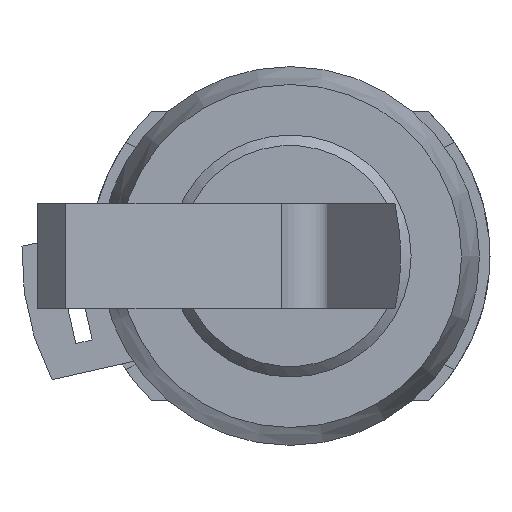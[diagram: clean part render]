
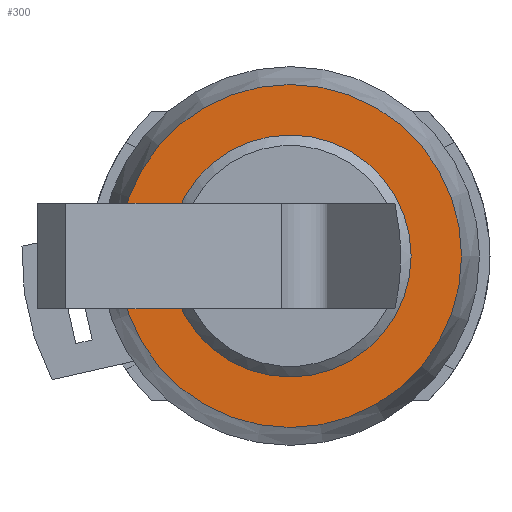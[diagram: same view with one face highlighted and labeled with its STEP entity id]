
A CAD part, left-side view. The second image highlights one B-rep face of the part: STEP entity #300.
In plain terms, the highlighted planar face has unit normal (-1, 0, 0).
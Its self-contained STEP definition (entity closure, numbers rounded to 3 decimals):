
#300 = ADVANCED_FACE ( 'NONE', ( #6231, #6241 ), #5294, .T. ) ;
#778 = EDGE_CURVE ( 'NONE', #11018, #11018, #10573, .T. ) ;
#780 = EDGE_CURVE ( 'NONE', #11022, #11022, #10575, .T. ) ;
#2226 = EDGE_LOOP ( 'NONE', ( #13695 ) ) ;
#2227 = EDGE_LOOP ( 'NONE', ( #13697 ) ) ;
#5285 = CARTESIAN_POINT ( 'NONE',  ( 0., 13.9, 0. ) ) ;
#5294 = PLANE ( 'NONE',  #7206 ) ;
#5295 = DIRECTION ( 'NONE',  ( -1., 0., 0. ) ) ;
#5296 = DIRECTION ( 'NONE',  ( 0., -1., 0. ) ) ;
#6231 = FACE_BOUND ( 'NONE', #2226, .T. ) ;
#6241 = FACE_OUTER_BOUND ( 'NONE', #2227, .T. ) ;
#7206 = AXIS2_PLACEMENT_3D ( 'NONE', #5285, #5295, #5296 ) ;
#7543 = AXIS2_PLACEMENT_3D ( 'NONE', #9360, #9375, #9377 ) ;
#7545 = AXIS2_PLACEMENT_3D ( 'NONE', #9372, #9388, #9390 ) ;
#9360 = CARTESIAN_POINT ( 'NONE',  ( 0., 0., 0. ) ) ;
#9372 = CARTESIAN_POINT ( 'NONE',  ( 0., 0., 0. ) ) ;
#9375 = DIRECTION ( 'NONE',  ( 1., 0., 0. ) ) ;
#9377 = DIRECTION ( 'NONE',  ( 0., 1., 0. ) ) ;
#9388 = DIRECTION ( 'NONE',  ( 1., 0., 0. ) ) ;
#9390 = DIRECTION ( 'NONE',  ( 0., 1., 0. ) ) ;
#10573 = CIRCLE ( 'NONE', #7543, 11.5 ) ;
#10575 = CIRCLE ( 'NONE', #7545, 16.3 ) ;
#11018 = VERTEX_POINT ( 'NONE', #11019 ) ;
#11019 = CARTESIAN_POINT ( 'NONE',  ( 0., 11.5, 0. ) ) ;
#11022 = VERTEX_POINT ( 'NONE', #11023 ) ;
#11023 = CARTESIAN_POINT ( 'NONE',  ( 0., 16.3, 0. ) ) ;
#13695 = ORIENTED_EDGE ( 'NONE', *, *, #778, .T. ) ;
#13697 = ORIENTED_EDGE ( 'NONE', *, *, #780, .F. ) ;
